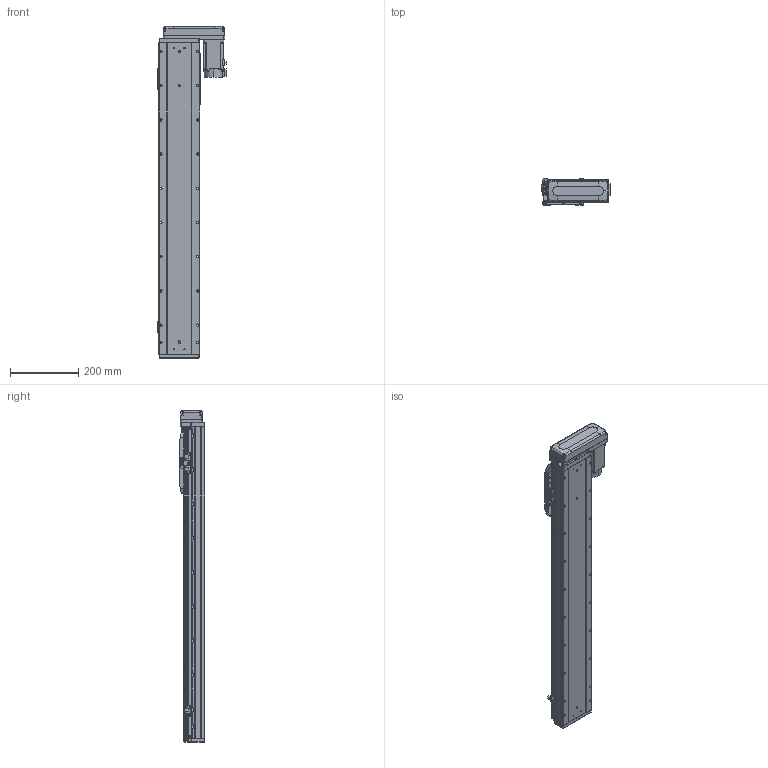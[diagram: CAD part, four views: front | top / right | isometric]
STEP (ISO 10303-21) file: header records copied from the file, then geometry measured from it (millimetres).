
FILE_DESCRIPTION (( 'STEP AP203' ), '1' );
FILE_NAME ('GTH12-700-BL-M40-C4.step', '2025-07-16T03:42:02', ( '' ), ( '' ), 'SwSTEP 2.0', 'SolidWorks 2023', '' );
FILE_SCHEMA (( 'CONFIG_CONTROL_DESIGN' ));
Length unit declared in the file: millimetre
Products named in the file (17): hg-kn43j_-s100_; GTH120-013; GBT 70.3-M3×8; GTH80-028; GBT 70.1-M3×6; BTH-M3X5X6; GTH120-006; GTH120-004; CTHA86-033_M40B; 感应器总成右; GBT 70.1-M5×16; GTH120-003; GTH120-001_700; GTH12-700-BL-M40-C4; GTH80-022; GTH120-027-1_GTH120-027-2; 感应器总成左
Assembly tree (38 placements, depth 2):
  GTH12-700-BL-M40-C4
    GTH120-001_700
    GTH120-003
    GTH120-006
    GTH120-004
    GTH120-013
    GBT 70.1-M3×6  x2
    GBT 70.1-M5×16  x10
    GBT 70.3-M3×8  x4
    GTH80-022
    GTH80-028  x2
    BTH-M3X5X6  x8
    hg-kn43j_-s100_
    CTHA86-033_M40B
    GTH120-027-1_GTH120-027-2
    感应器总成右  x2
    感应器总成左
Bounding box: 203.5 x 76 x 970.5 mm (x, y, z)
Volume: 7178434.4 mm3; surface area: 657849 mm2
Topology: 55 solids, 55 shells, 2428 faces, 5711 edges, 3519 vertices
Faces by surface type: plane 1236, cylinder 708, cone 308, torus 162, sphere 8, bspline 6
Entity records: 53501 total; most frequent: CARTESIAN_POINT 9156, DIRECTION 9066, ORIENTED_EDGE 8414, EDGE_CURVE 4207, AXIS2_PLACEMENT_3D 3162, VECTOR 2742, LINE 2742, VERTEX_POINT 2652
